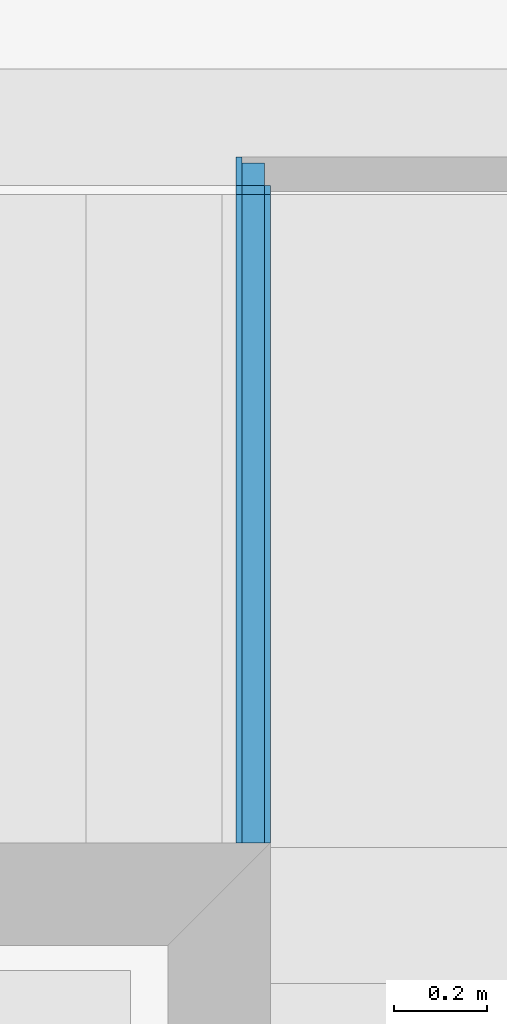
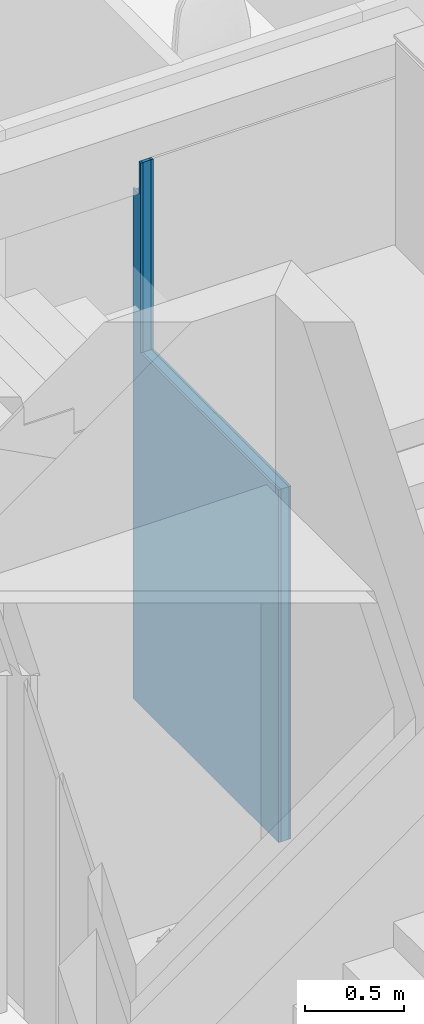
# One storey, part 59 of 91: 3 building element parts, 1 element without a shape of its own.
"""IFC2X3 building model written with IfcOpenShell, lengths in metres."""

from ifc_helpers import new_model, entity, si_unit, converted_unit, derived_unit, money_unit, direction, frame, origin_with_axes, place, context, subcontext, project, spatial, polyline, outline, extrude, boolean, faceted_brep, material, type_object, element, aggregate, save


model = new_model("IFC2X3")

# Units and contexts
model_context = context("Model", 3, precision=1e-05, world=origin_with_axes(), true_north=direction((0.0, 1.0)))
body_context = subcontext(model_context, "Body", "Model", "MODEL_VIEW")
ifc_project = project(units=[si_unit("LENGTHUNIT", "METRE"), si_unit("AREAUNIT", "SQUARE_METRE"), si_unit("VOLUMEUNIT", "CUBIC_METRE"), converted_unit("PLANEANGLEUNIT", "DEGREE", entity("IfcPlaneAngleMeasure", 0.0174532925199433), si_unit("PLANEANGLEUNIT", "RADIAN"), dimensions=[0, 0, 0, 0, 0, 0, 0]), money_unit("EUR"), converted_unit("TIMEUNIT", "Year", entity("IfcTimeMeasure", 31557600.0), si_unit("TIMEUNIT", "SECOND"), dimensions=[0, 0, 1, 0, 0, 0, 0]), si_unit("MASSUNIT", "GRAM", prefix="KILO"), si_unit("THERMODYNAMICTEMPERATUREUNIT", "DEGREE_CELSIUS"), si_unit("LUMINOUSINTENSITYUNIT", "LUMEN"), si_unit("ENERGYUNIT", "JOULE", prefix="MEGA"), derived_unit("THERMALCONDUCTANCEUNIT", [(si_unit("POWERUNIT", "WATT"), 1), (si_unit("LENGTHUNIT", "METRE"), -1), (si_unit("THERMODYNAMICTEMPERATUREUNIT", "KELVIN"), -1)]), derived_unit("SPECIFICHEATCAPACITYUNIT", [(si_unit("ENERGYUNIT", "JOULE"), 1), (si_unit("MASSUNIT", "GRAM", prefix="KILO"), -1), (si_unit("THERMODYNAMICTEMPERATUREUNIT", "KELVIN"), -1)]), derived_unit("MASSDENSITYUNIT", [(si_unit("MASSUNIT", "GRAM", prefix="KILO"), 1), (si_unit("VOLUMEUNIT", "CUBIC_METRE"), -1)])], contexts=[model_context])

# Site, building, storey
site_placement = place(None, origin_with_axes())
site = spatial("IfcSite", under=ifc_project, at=site_placement, Name="Site", CompositionType="ELEMENT")
building_placement = place(site_placement, origin_with_axes())
building = spatial("IfcBuilding", under=site, at=building_placement, Name="Bâtiment", CompositionType="ELEMENT")
storey_placement = place(building_placement, origin_with_axes())
storey = spatial("IfcBuildingStorey", under=building, at=storey_placement, Name="RDC", CompositionType="ELEMENT", Elevation=0.0)

# Wall, building element parts
wall_type = type_object("IfcWallType", Name="*Cloison 72 74", PredefinedType="NOTDEFINED")
wall_placement = place(storey_placement, frame((36.41300800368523, -18.08756214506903, 0.0), z_axis=(0.0, 0.0, 1.0), x_axis=(0.0, 1.0, 0.0)))
wall = element("IfcWall", 1, at=wall_placement, inside=storey, type_object=wall_type, Name="Cloisons ép. 72mm")
ifc_material_1 = material(Name="Finition int - Plaque de plâtre")
building_element_part_1_placement = place(wall_placement, origin_with_axes())
building_element_part_1 = element("IfcBuildingElementPart", 2, at=building_element_part_1_placement, material=ifc_material_1, Name="Finition int - Plaque de plâtre", context=body_context, shape_type="CSG", body=[
    boolean("DIFFERENCE", boolean("DIFFERENCE", boolean("DIFFERENCE", boolean("DIFFERENCE", boolean("DIFFERENCE", boolean("DIFFERENCE", extrude(outline(polyline([(-0.2199999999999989, 0.06099999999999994), (1.469997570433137, 0.06099999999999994), (1.469997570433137, 0.07399999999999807), (-0.2199999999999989, 0.07399999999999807), (-0.2199999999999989, 0.06099999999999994)])), origin_with_axes(), (0.0, 0.0, 1.0), 3.34), faceted_brep([(0.0, 0.06099999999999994, 2.171739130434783), (1.389997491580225, 0.06099999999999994, 2.171739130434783), (1.389997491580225, 0.06099999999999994, 3.34), (-0.2199999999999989, 0.06099999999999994, 3.34), (-0.2199999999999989, 0.06099999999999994, 0.0), (0.0, 0.06099999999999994, 0.0), (0.0, 0.07399999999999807, 2.171739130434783), (1.389997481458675, 0.07399999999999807, 2.171739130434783), (1.389997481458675, 0.07399999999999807, 3.34), (-0.2199999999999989, 0.07399999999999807, 3.34), (-0.2199999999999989, 0.07399999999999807, 0.0), (0.0, 0.07399999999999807, 0.0)], [[[0, 1, 2, 3, 4, 5]], [[1, 0, 6, 7]], [[8, 2, 1, 7]], [[2, 8, 9, 3]], [[9, 10, 4, 3]], [[11, 5, 4, 10]], [[5, 11, 6, 0]], [[6, 11, 10, 9, 8, 7]]])), faceted_brep([(1.408997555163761, 0.06099999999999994, 3.14), (1.469997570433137, 0.06099999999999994, 3.14), (1.469997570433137, 0.06099999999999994, 3.34), (1.408997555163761, 0.06099999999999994, 3.34), (1.469997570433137, 0.07399999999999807, 3.14), (1.408997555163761, 0.07399999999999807, 3.14), (1.469997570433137, 0.07399999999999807, 3.34), (1.408997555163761, 0.07399999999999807, 3.34)], [[[0, 1, 2, 3]], [[4, 1, 0, 5]], [[1, 4, 6, 2]], [[7, 3, 2, 6]], [[3, 7, 5, 0]], [[5, 7, 6, 4]]])), faceted_brep([(0.0, 0.01299999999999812, 2.171739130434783), (1.389997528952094, 0.01299999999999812, 2.171739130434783), (1.389997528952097, 0.01299999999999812, 3.34), (-0.2199999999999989, 0.01299999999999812, 3.34), (-0.2199999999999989, 0.01299999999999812, 0.0), (0.0, 0.01299999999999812, 0.0), (0.0, 0.06099999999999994, 2.171739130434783), (1.389997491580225, 0.06099999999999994, 2.171739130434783), (1.389997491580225, 0.06099999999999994, 3.34), (-0.2199999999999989, 0.06099999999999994, 3.34), (-0.2199999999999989, 0.06099999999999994, 0.0), (0.0, 0.06099999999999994, 0.0)], [[[0, 1, 2, 3, 4, 5]], [[1, 0, 6, 7]], [[8, 2, 1, 7]], [[2, 8, 9, 3]], [[9, 10, 4, 3]], [[11, 5, 4, 10]], [[5, 11, 6, 0]], [[6, 11, 10, 9, 8, 7]]])), faceted_brep([(1.408997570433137, 0.01299999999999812, 3.34), (1.408997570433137, 0.01299999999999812, 3.139999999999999), (1.456997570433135, 0.01299999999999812, 3.14), (1.456997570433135, 0.01299999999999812, 0.0), (1.469997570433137, 0.01299999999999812, 0.0), (1.469997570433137, 0.01299999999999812, 3.34), (1.408997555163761, 0.06099999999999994, 3.34), (1.408997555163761, 0.06099999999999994, 3.14), (1.456997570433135, 0.06099999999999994, 3.14), (1.456997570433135, 0.06099999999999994, 0.0), (1.469997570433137, 0.06099999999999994, 0.0), (1.469997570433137, 0.06099999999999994, 3.34)], [[[0, 1, 2, 3, 4, 5]], [[0, 6, 7, 1]], [[2, 1, 7, 8]], [[3, 2, 8, 9]], [[3, 9, 10, 4]], [[5, 4, 10, 11]], [[6, 0, 5, 11]], [[7, 6, 11, 10, 9, 8]]])), faceted_brep([(0.0, 1.407109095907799e-09, 2.171739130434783), (1.389997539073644, 0.0, 2.171739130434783), (1.389997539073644, 0.0, 3.34), (-0.2199999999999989, 0.0, 3.34), (-0.2199999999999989, 0.0, 0.0), (0.0, 5.960473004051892e-09, 0.0), (0.0, 0.01299999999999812, 2.171739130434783), (1.389997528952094, 0.01299999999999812, 2.171739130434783), (1.389997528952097, 0.01299999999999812, 3.34), (-0.2199999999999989, 0.01299999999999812, 3.34), (-0.2199999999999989, 0.01299999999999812, 0.0), (0.0, 0.01299999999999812, 0.0)], [[[0, 1, 2, 3, 4, 5]], [[1, 0, 6, 7]], [[8, 2, 1, 7]], [[2, 8, 9, 3]], [[9, 10, 4, 3]], [[11, 5, 4, 10]], [[0, 5, 11, 6]], [[6, 11, 10, 9, 8, 7]]])), faceted_brep([(1.408997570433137, 0.01299999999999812, 3.34), (1.408997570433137, 0.0, 3.34), (1.469997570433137, 0.0, 3.34), (1.469997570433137, 0.01299999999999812, 3.34), (1.408997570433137, 0.0, 0.0), (1.408997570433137, 0.01299999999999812, 0.0), (1.469997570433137, 0.0, 0.0), (1.469997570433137, 0.01299999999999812, 0.0)], [[[0, 1, 2, 3]], [[4, 1, 0, 5]], [[1, 4, 6, 2]], [[2, 6, 7, 3]], [[5, 0, 3, 7]], [[4, 5, 7, 6]]])),
])
ifc_material_2 = material(Name="Isolation - Laine de verre")
building_element_part_2_placement = place(wall_placement, origin_with_axes())
building_element_part_2 = element("IfcBuildingElementPart", 3, at=building_element_part_2_placement, material=ifc_material_2, Name="Isolation - Laine de verre", context=body_context, shape_type="CSG", body=[
    boolean("DIFFERENCE", boolean("DIFFERENCE", boolean("DIFFERENCE", boolean("DIFFERENCE", boolean("DIFFERENCE", boolean("DIFFERENCE", extrude(outline(polyline([(-0.2199999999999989, 0.01299999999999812), (1.469997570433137, 0.01299999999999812), (1.469997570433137, 0.06099999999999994), (-0.2199999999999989, 0.06099999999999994), (-0.2199999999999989, 0.01299999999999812)])), origin_with_axes(), (0.0, 0.0, 1.0), 3.34), faceted_brep([(0.0, 0.06099999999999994, 2.171739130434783), (1.389997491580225, 0.06099999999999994, 2.171739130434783), (1.389997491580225, 0.06099999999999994, 3.34), (-0.2199999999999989, 0.06099999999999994, 3.34), (-0.2199999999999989, 0.06099999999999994, 0.0), (0.0, 0.06099999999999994, 0.0), (0.0, 0.07399999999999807, 2.171739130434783), (1.389997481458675, 0.07399999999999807, 2.171739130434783), (1.389997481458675, 0.07399999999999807, 3.34), (-0.2199999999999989, 0.07399999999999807, 3.34), (-0.2199999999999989, 0.07399999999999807, 0.0), (0.0, 0.07399999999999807, 0.0)], [[[0, 1, 2, 3, 4, 5]], [[1, 0, 6, 7]], [[8, 2, 1, 7]], [[2, 8, 9, 3]], [[9, 10, 4, 3]], [[11, 5, 4, 10]], [[5, 11, 6, 0]], [[6, 11, 10, 9, 8, 7]]])), faceted_brep([(1.408997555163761, 0.06099999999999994, 3.14), (1.469997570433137, 0.06099999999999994, 3.14), (1.469997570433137, 0.06099999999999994, 3.34), (1.408997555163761, 0.06099999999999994, 3.34), (1.469997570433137, 0.07399999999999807, 3.14), (1.408997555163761, 0.07399999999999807, 3.14), (1.469997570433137, 0.07399999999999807, 3.34), (1.408997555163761, 0.07399999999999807, 3.34)], [[[0, 1, 2, 3]], [[4, 1, 0, 5]], [[1, 4, 6, 2]], [[7, 3, 2, 6]], [[3, 7, 5, 0]], [[5, 7, 6, 4]]])), faceted_brep([(0.0, 0.01299999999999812, 2.171739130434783), (1.389997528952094, 0.01299999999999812, 2.171739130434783), (1.389997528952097, 0.01299999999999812, 3.34), (-0.2199999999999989, 0.01299999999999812, 3.34), (-0.2199999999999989, 0.01299999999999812, 0.0), (0.0, 0.01299999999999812, 0.0), (0.0, 0.06099999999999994, 2.171739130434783), (1.389997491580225, 0.06099999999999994, 2.171739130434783), (1.389997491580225, 0.06099999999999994, 3.34), (-0.2199999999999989, 0.06099999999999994, 3.34), (-0.2199999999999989, 0.06099999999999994, 0.0), (0.0, 0.06099999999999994, 0.0)], [[[0, 1, 2, 3, 4, 5]], [[1, 0, 6, 7]], [[8, 2, 1, 7]], [[2, 8, 9, 3]], [[9, 10, 4, 3]], [[11, 5, 4, 10]], [[5, 11, 6, 0]], [[6, 11, 10, 9, 8, 7]]])), faceted_brep([(1.408997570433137, 0.01299999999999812, 3.34), (1.408997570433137, 0.01299999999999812, 3.139999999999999), (1.456997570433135, 0.01299999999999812, 3.14), (1.456997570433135, 0.01299999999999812, 0.0), (1.469997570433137, 0.01299999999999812, 0.0), (1.469997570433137, 0.01299999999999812, 3.34), (1.408997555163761, 0.06099999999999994, 3.34), (1.408997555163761, 0.06099999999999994, 3.14), (1.456997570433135, 0.06099999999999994, 3.14), (1.456997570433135, 0.06099999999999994, 0.0), (1.469997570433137, 0.06099999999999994, 0.0), (1.469997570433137, 0.06099999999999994, 3.34)], [[[0, 1, 2, 3, 4, 5]], [[0, 6, 7, 1]], [[2, 1, 7, 8]], [[3, 2, 8, 9]], [[3, 9, 10, 4]], [[5, 4, 10, 11]], [[6, 0, 5, 11]], [[7, 6, 11, 10, 9, 8]]])), faceted_brep([(0.0, 1.407109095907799e-09, 2.171739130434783), (1.389997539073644, 0.0, 2.171739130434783), (1.389997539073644, 0.0, 3.34), (-0.2199999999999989, 0.0, 3.34), (-0.2199999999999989, 0.0, 0.0), (0.0, 5.960473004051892e-09, 0.0), (0.0, 0.01299999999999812, 2.171739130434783), (1.389997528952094, 0.01299999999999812, 2.171739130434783), (1.389997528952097, 0.01299999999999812, 3.34), (-0.2199999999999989, 0.01299999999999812, 3.34), (-0.2199999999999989, 0.01299999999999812, 0.0), (0.0, 0.01299999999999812, 0.0)], [[[0, 1, 2, 3, 4, 5]], [[1, 0, 6, 7]], [[8, 2, 1, 7]], [[2, 8, 9, 3]], [[9, 10, 4, 3]], [[11, 5, 4, 10]], [[0, 5, 11, 6]], [[6, 11, 10, 9, 8, 7]]])), faceted_brep([(1.408997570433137, 0.01299999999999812, 3.34), (1.408997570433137, 0.0, 3.34), (1.469997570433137, 0.0, 3.34), (1.469997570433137, 0.01299999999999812, 3.34), (1.408997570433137, 0.0, 0.0), (1.408997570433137, 0.01299999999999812, 0.0), (1.469997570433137, 0.0, 0.0), (1.469997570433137, 0.01299999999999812, 0.0)], [[[0, 1, 2, 3]], [[4, 1, 0, 5]], [[1, 4, 6, 2]], [[2, 6, 7, 3]], [[5, 0, 3, 7]], [[4, 5, 7, 6]]])),
])
building_element_part_3_placement = place(wall_placement, origin_with_axes())
building_element_part_3 = element("IfcBuildingElementPart", 4, at=building_element_part_3_placement, material=ifc_material_1, Name="Finition int - Plaque de plâtre", context=body_context, shape_type="CSG", body=[
    boolean("DIFFERENCE", boolean("DIFFERENCE", boolean("DIFFERENCE", boolean("DIFFERENCE", boolean("DIFFERENCE", boolean("DIFFERENCE", extrude(outline(polyline([(-0.2199999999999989, 0.0), (1.469997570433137, 0.0), (1.469997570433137, 0.01299999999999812), (-0.2199999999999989, 0.01299999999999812), (-0.2199999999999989, 0.0)])), origin_with_axes(), (0.0, 0.0, 1.0), 3.34), faceted_brep([(0.0, 0.06099999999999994, 2.171739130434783), (1.389997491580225, 0.06099999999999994, 2.171739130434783), (1.389997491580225, 0.06099999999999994, 3.34), (-0.2199999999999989, 0.06099999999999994, 3.34), (-0.2199999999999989, 0.06099999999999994, 0.0), (0.0, 0.06099999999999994, 0.0), (0.0, 0.07399999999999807, 2.171739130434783), (1.389997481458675, 0.07399999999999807, 2.171739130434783), (1.389997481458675, 0.07399999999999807, 3.34), (-0.2199999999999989, 0.07399999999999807, 3.34), (-0.2199999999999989, 0.07399999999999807, 0.0), (0.0, 0.07399999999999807, 0.0)], [[[0, 1, 2, 3, 4, 5]], [[1, 0, 6, 7]], [[8, 2, 1, 7]], [[2, 8, 9, 3]], [[9, 10, 4, 3]], [[11, 5, 4, 10]], [[5, 11, 6, 0]], [[6, 11, 10, 9, 8, 7]]])), faceted_brep([(1.408997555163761, 0.06099999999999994, 3.14), (1.469997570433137, 0.06099999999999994, 3.14), (1.469997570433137, 0.06099999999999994, 3.34), (1.408997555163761, 0.06099999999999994, 3.34), (1.469997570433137, 0.07399999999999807, 3.14), (1.408997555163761, 0.07399999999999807, 3.14), (1.469997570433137, 0.07399999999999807, 3.34), (1.408997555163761, 0.07399999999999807, 3.34)], [[[0, 1, 2, 3]], [[4, 1, 0, 5]], [[1, 4, 6, 2]], [[7, 3, 2, 6]], [[3, 7, 5, 0]], [[5, 7, 6, 4]]])), faceted_brep([(0.0, 0.01299999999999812, 2.171739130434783), (1.389997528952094, 0.01299999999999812, 2.171739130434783), (1.389997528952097, 0.01299999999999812, 3.34), (-0.2199999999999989, 0.01299999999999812, 3.34), (-0.2199999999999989, 0.01299999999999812, 0.0), (0.0, 0.01299999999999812, 0.0), (0.0, 0.06099999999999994, 2.171739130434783), (1.389997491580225, 0.06099999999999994, 2.171739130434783), (1.389997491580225, 0.06099999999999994, 3.34), (-0.2199999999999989, 0.06099999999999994, 3.34), (-0.2199999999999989, 0.06099999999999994, 0.0), (0.0, 0.06099999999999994, 0.0)], [[[0, 1, 2, 3, 4, 5]], [[1, 0, 6, 7]], [[8, 2, 1, 7]], [[2, 8, 9, 3]], [[9, 10, 4, 3]], [[11, 5, 4, 10]], [[5, 11, 6, 0]], [[6, 11, 10, 9, 8, 7]]])), faceted_brep([(1.408997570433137, 0.01299999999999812, 3.34), (1.408997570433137, 0.01299999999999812, 3.139999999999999), (1.456997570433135, 0.01299999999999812, 3.14), (1.456997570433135, 0.01299999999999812, 0.0), (1.469997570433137, 0.01299999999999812, 0.0), (1.469997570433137, 0.01299999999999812, 3.34), (1.408997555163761, 0.06099999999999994, 3.34), (1.408997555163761, 0.06099999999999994, 3.14), (1.456997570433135, 0.06099999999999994, 3.14), (1.456997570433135, 0.06099999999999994, 0.0), (1.469997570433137, 0.06099999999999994, 0.0), (1.469997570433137, 0.06099999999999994, 3.34)], [[[0, 1, 2, 3, 4, 5]], [[0, 6, 7, 1]], [[2, 1, 7, 8]], [[3, 2, 8, 9]], [[3, 9, 10, 4]], [[5, 4, 10, 11]], [[6, 0, 5, 11]], [[7, 6, 11, 10, 9, 8]]])), faceted_brep([(0.0, 1.407109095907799e-09, 2.171739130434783), (1.389997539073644, 0.0, 2.171739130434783), (1.389997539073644, 0.0, 3.34), (-0.2199999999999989, 0.0, 3.34), (-0.2199999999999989, 0.0, 0.0), (0.0, 5.960473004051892e-09, 0.0), (0.0, 0.01299999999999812, 2.171739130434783), (1.389997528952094, 0.01299999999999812, 2.171739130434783), (1.389997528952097, 0.01299999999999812, 3.34), (-0.2199999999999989, 0.01299999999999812, 3.34), (-0.2199999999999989, 0.01299999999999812, 0.0), (0.0, 0.01299999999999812, 0.0)], [[[0, 1, 2, 3, 4, 5]], [[1, 0, 6, 7]], [[8, 2, 1, 7]], [[2, 8, 9, 3]], [[9, 10, 4, 3]], [[11, 5, 4, 10]], [[0, 5, 11, 6]], [[6, 11, 10, 9, 8, 7]]])), faceted_brep([(1.408997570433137, 0.01299999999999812, 3.34), (1.408997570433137, 0.0, 3.34), (1.469997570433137, 0.0, 3.34), (1.469997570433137, 0.01299999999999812, 3.34), (1.408997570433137, 0.0, 0.0), (1.408997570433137, 0.01299999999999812, 0.0), (1.469997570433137, 0.0, 0.0), (1.469997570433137, 0.01299999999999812, 0.0)], [[[0, 1, 2, 3]], [[4, 1, 0, 5]], [[1, 4, 6, 2]], [[2, 6, 7, 3]], [[5, 0, 3, 7]], [[4, 5, 7, 6]]])),
])
aggregate(wall, [building_element_part_1, building_element_part_2, building_element_part_3])

save(model, "model.ifc")
